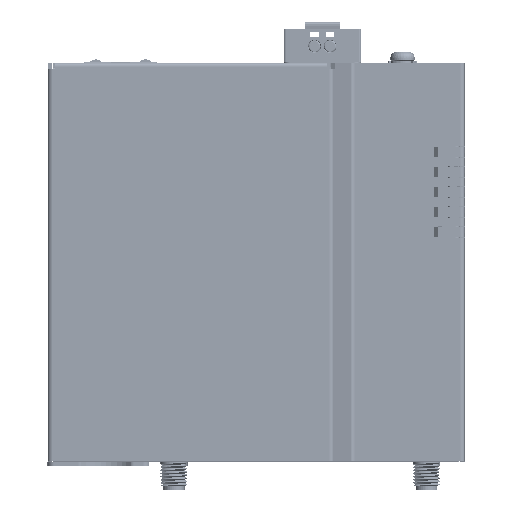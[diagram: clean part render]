
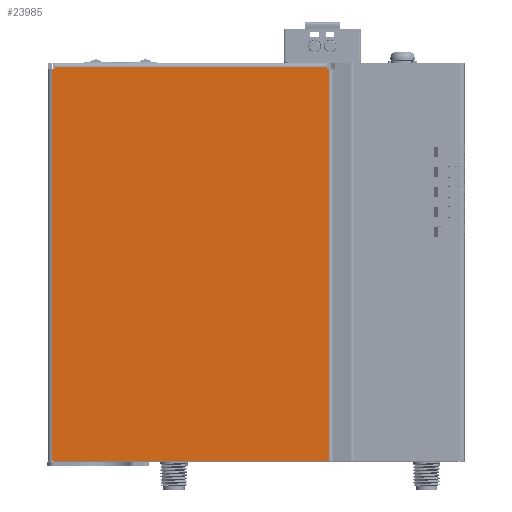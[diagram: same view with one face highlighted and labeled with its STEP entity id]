
A CAD part, top view. The second image highlights one B-rep face of the part: STEP entity #23985.
In plain terms, the highlighted planar face has unit normal (0, 0, 1) as drawn and (0, 1, 0) by its records, which use the part's own axes.
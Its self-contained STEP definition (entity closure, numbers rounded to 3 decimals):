
#3396 = CARTESIAN_POINT ( 'NONE',  ( 29.903, 39., -1. ) ) ;
#4474 = ORIENTED_EDGE ( 'NONE', *, *, #249371, .T. ) ;
#6001 = VERTEX_POINT ( 'NONE', #114397 ) ;
#6897 = ORIENTED_EDGE ( 'NONE', *, *, #86912, .T. ) ;
#8708 = DIRECTION ( 'NONE',  ( 1., 0., 0. ) ) ;
#14943 = CARTESIAN_POINT ( 'NONE',  ( 93., 39., -90. ) ) ;
#16461 = DIRECTION ( 'NONE',  ( 0., 0., 1. ) ) ;
#21193 = VERTEX_POINT ( 'NONE', #227337 ) ;
#23985 = ADVANCED_FACE ( 'NONE', ( #182400 ), #46365, .F. ) ;
#30147 = LINE ( 'NONE', #3396, #156068 ) ;
#33114 = VERTEX_POINT ( 'NONE', #65940 ) ;
#36990 = LINE ( 'NONE', #283682, #198790 ) ;
#37797 = VERTEX_POINT ( 'NONE', #247492 ) ;
#39289 = VECTOR ( 'NONE', #216737, 1000. ) ;
#40031 = VERTEX_POINT ( 'NONE', #184336 ) ;
#40988 = DIRECTION ( 'NONE',  ( 0., 0., 1. ) ) ;
#45404 = CARTESIAN_POINT ( 'NONE',  ( 30.981, 39., -90. ) ) ;
#46365 = PLANE ( 'NONE',  #261823 ) ;
#53133 = ORIENTED_EDGE ( 'NONE', *, *, #188193, .F. ) ;
#62862 = EDGE_CURVE ( 'NONE', #290102, #6001, #148557, .T. ) ;
#65940 = CARTESIAN_POINT ( 'NONE',  ( 30.481, 39., -1.5 ) ) ;
#83366 = EDGE_CURVE ( 'NONE', #21193, #154355, #30147, .T. ) ;
#86912 = EDGE_CURVE ( 'NONE', #33114, #37797, #210511, .T. ) ;
#94133 = DIRECTION ( 'NONE',  ( 0., -1., 0. ) ) ;
#104097 = EDGE_LOOP ( 'NONE', ( #237730, #265444, #107705, #6897, #4474, #157900, #160052, #53133 ) ) ;
#107705 = ORIENTED_EDGE ( 'NONE', *, *, #189931, .T. ) ;
#111149 = LINE ( 'NONE', #45404, #273573 ) ;
#114397 = CARTESIAN_POINT ( 'NONE',  ( 93., 39., -1.5 ) ) ;
#133383 = VECTOR ( 'NONE', #175430, 1000. ) ;
#135951 = CARTESIAN_POINT ( 'NONE',  ( 29.903, 39., -90. ) ) ;
#139061 = LINE ( 'NONE', #230396, #39289 ) ;
#145253 = EDGE_CURVE ( 'NONE', #40031, #154355, #139061, .T. ) ;
#148557 = LINE ( 'NONE', #194935, #133383 ) ;
#154355 = VERTEX_POINT ( 'NONE', #251595 ) ;
#156068 = VECTOR ( 'NONE', #233570, 1000. ) ;
#157154 = LINE ( 'NONE', #248382, #294479 ) ;
#157900 = ORIENTED_EDGE ( 'NONE', *, *, #83366, .T. ) ;
#160052 = ORIENTED_EDGE ( 'NONE', *, *, #145253, .F. ) ;
#175430 = DIRECTION ( 'NONE',  ( 0., 0., 1. ) ) ;
#182400 = FACE_OUTER_BOUND ( 'NONE', #104097, .T. ) ;
#184336 = CARTESIAN_POINT ( 'NONE',  ( 92.5, 39., -1.5 ) ) ;
#185528 = DIRECTION ( 'NONE',  ( -1., 0., 0. ) ) ;
#188042 = CARTESIAN_POINT ( 'NONE',  ( 29.903, 39., -1.5 ) ) ;
#188193 = EDGE_CURVE ( 'NONE', #6001, #40031, #157154, .T. ) ;
#189931 = EDGE_CURVE ( 'NONE', #238487, #33114, #221282, .T. ) ;
#194935 = CARTESIAN_POINT ( 'NONE',  ( 93., 39., -90. ) ) ;
#198790 = VECTOR ( 'NONE', #238868, 1000. ) ;
#210511 = LINE ( 'NONE', #188042, #257299 ) ;
#216737 = DIRECTION ( 'NONE',  ( 0., 0., 1. ) ) ;
#221282 = LINE ( 'NONE', #291528, #256970 ) ;
#227278 = DIRECTION ( 'NONE',  ( 0., 0., -1. ) ) ;
#227337 = CARTESIAN_POINT ( 'NONE',  ( 30.981, 39., -1. ) ) ;
#230396 = CARTESIAN_POINT ( 'NONE',  ( 92.5, 39., -90. ) ) ;
#233570 = DIRECTION ( 'NONE',  ( 1., 0., 0. ) ) ;
#237730 = ORIENTED_EDGE ( 'NONE', *, *, #62862, .F. ) ;
#238487 = VERTEX_POINT ( 'NONE', #263573 ) ;
#238868 = DIRECTION ( 'NONE',  ( 1., 0., 0. ) ) ;
#247492 = CARTESIAN_POINT ( 'NONE',  ( 30.981, 39., -1.5 ) ) ;
#248382 = CARTESIAN_POINT ( 'NONE',  ( 29.903, 39., -1.5 ) ) ;
#249371 = EDGE_CURVE ( 'NONE', #37797, #21193, #111149, .T. ) ;
#251595 = CARTESIAN_POINT ( 'NONE',  ( 92.5, 39., -1. ) ) ;
#256970 = VECTOR ( 'NONE', #16461, 1000. ) ;
#257299 = VECTOR ( 'NONE', #8708, 1000. ) ;
#261823 = AXIS2_PLACEMENT_3D ( 'NONE', #135951, #94133, #227278 ) ;
#263573 = CARTESIAN_POINT ( 'NONE',  ( 30.481, 39., -90. ) ) ;
#265444 = ORIENTED_EDGE ( 'NONE', *, *, #288886, .F. ) ;
#273573 = VECTOR ( 'NONE', #40988, 1000. ) ;
#283682 = CARTESIAN_POINT ( 'NONE',  ( 29.903, 39., -90. ) ) ;
#288886 = EDGE_CURVE ( 'NONE', #238487, #290102, #36990, .T. ) ;
#290102 = VERTEX_POINT ( 'NONE', #14943 ) ;
#291528 = CARTESIAN_POINT ( 'NONE',  ( 30.481, 39., -90. ) ) ;
#294479 = VECTOR ( 'NONE', #185528, 1000. ) ;
